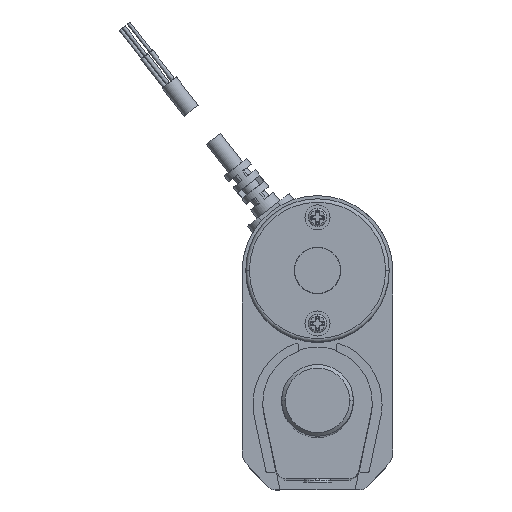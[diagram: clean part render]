
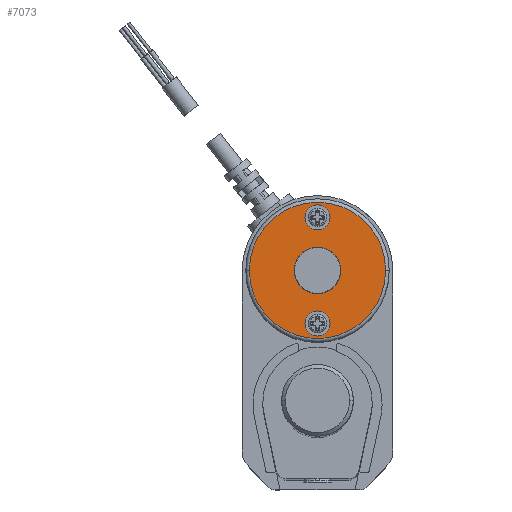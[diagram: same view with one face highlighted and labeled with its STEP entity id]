
A CAD part, top view. The second image highlights one B-rep face of the part: STEP entity #7073.
In plain terms, the highlighted planar face has unit normal (0, 0, 1).
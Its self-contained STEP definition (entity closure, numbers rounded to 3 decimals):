
#184 = AXIS2_PLACEMENT_3D ( 'NONE', #5513, #1861, #408 ) ;
#207 = AXIS2_PLACEMENT_3D ( 'NONE', #975, #9564, #4624 ) ;
#408 = DIRECTION ( 'NONE',  ( -1., 0., 0. ) ) ;
#975 = CARTESIAN_POINT ( 'NONE',  ( 0., 6.354, 132. ) ) ;
#984 = ORIENTED_EDGE ( 'NONE', *, *, #3474, .T. ) ;
#1362 = EDGE_CURVE ( 'NONE', #15868, #10573, #13615, .T. ) ;
#1851 = AXIS2_PLACEMENT_3D ( 'NONE', #4719, #5840, #12132 ) ;
#1861 = DIRECTION ( 'NONE',  ( 0., 0., 1. ) ) ;
#1958 = CARTESIAN_POINT ( 'NONE',  ( 19., 21.154, 132. ) ) ;
#2783 = CARTESIAN_POINT ( 'NONE',  ( 1.5, 35.954, 132. ) ) ;
#3216 = EDGE_CURVE ( 'NONE', #8061, #13114, #4260, .T. ) ;
#3347 = CARTESIAN_POINT ( 'NONE',  ( 0., 21.154, 132. ) ) ;
#3474 = EDGE_CURVE ( 'NONE', #13380, #10177, #10856, .T. ) ;
#3583 = CARTESIAN_POINT ( 'NONE',  ( 0., 35.954, 132. ) ) ;
#3935 = PLANE ( 'NONE',  #8026 ) ;
#4169 = FACE_OUTER_BOUND ( 'NONE', #10462, .T. ) ;
#4260 = CIRCLE ( 'NONE', #13597, 1.5 ) ;
#4420 = CIRCLE ( 'NONE', #207, 1.5 ) ;
#4458 = DIRECTION ( 'NONE',  ( 0., 0., 1. ) ) ;
#4541 = DIRECTION ( 'NONE',  ( -1., 0., 0. ) ) ;
#4624 = DIRECTION ( 'NONE',  ( -1., 0., 0. ) ) ;
#4719 = CARTESIAN_POINT ( 'NONE',  ( 0., 21.154, 132. ) ) ;
#4845 = DIRECTION ( 'NONE',  ( -1., 0., 0. ) ) ;
#5264 = AXIS2_PLACEMENT_3D ( 'NONE', #3583, #5856, #4845 ) ;
#5444 = CARTESIAN_POINT ( 'NONE',  ( 0., 21.154, 132. ) ) ;
#5513 = CARTESIAN_POINT ( 'NONE',  ( 0., 6.354, 132. ) ) ;
#5840 = DIRECTION ( 'NONE',  ( 0., 0., 1. ) ) ;
#5856 = DIRECTION ( 'NONE',  ( 0., 0., 1. ) ) ;
#5916 = CARTESIAN_POINT ( 'NONE',  ( -19., 21.154, 132. ) ) ;
#6458 = ORIENTED_EDGE ( 'NONE', *, *, #14026, .F. ) ;
#6692 = DIRECTION ( 'NONE',  ( 0., 0., 1. ) ) ;
#7054 = ORIENTED_EDGE ( 'NONE', *, *, #15717, .T. ) ;
#7073 = ADVANCED_FACE ( 'NONE', ( #9018, #14419, #4169 ), #3935, .T. ) ;
#7178 = EDGE_LOOP ( 'NONE', ( #11765, #15417 ) ) ;
#7264 = CARTESIAN_POINT ( 'NONE',  ( -1.5, 6.354, 132. ) ) ;
#8026 = AXIS2_PLACEMENT_3D ( 'NONE', #5444, #6692, #13721 ) ;
#8061 = VERTEX_POINT ( 'NONE', #11594 ) ;
#8740 = CIRCLE ( 'NONE', #5264, 1.5 ) ;
#9018 = FACE_BOUND ( 'NONE', #7178, .T. ) ;
#9096 = EDGE_LOOP ( 'NONE', ( #13048, #6458 ) ) ;
#9564 = DIRECTION ( 'NONE',  ( 0., 0., 1. ) ) ;
#10177 = VERTEX_POINT ( 'NONE', #5916 ) ;
#10400 = CARTESIAN_POINT ( 'NONE',  ( 0., 35.954, 132. ) ) ;
#10462 = EDGE_LOOP ( 'NONE', ( #7054, #984 ) ) ;
#10573 = VERTEX_POINT ( 'NONE', #14671 ) ;
#10856 = CIRCLE ( 'NONE', #1851, 19. ) ;
#11594 = CARTESIAN_POINT ( 'NONE',  ( -1.5, 35.954, 132. ) ) ;
#11737 = DIRECTION ( 'NONE',  ( 0., 0., 1. ) ) ;
#11765 = ORIENTED_EDGE ( 'NONE', *, *, #3216, .F. ) ;
#12132 = DIRECTION ( 'NONE',  ( -1., 0., 0. ) ) ;
#12343 = EDGE_CURVE ( 'NONE', #13114, #8061, #8740, .T. ) ;
#12789 = AXIS2_PLACEMENT_3D ( 'NONE', #3347, #4458, #14502 ) ;
#13048 = ORIENTED_EDGE ( 'NONE', *, *, #1362, .F. ) ;
#13114 = VERTEX_POINT ( 'NONE', #2783 ) ;
#13380 = VERTEX_POINT ( 'NONE', #1958 ) ;
#13487 = CIRCLE ( 'NONE', #12789, 19. ) ;
#13597 = AXIS2_PLACEMENT_3D ( 'NONE', #10400, #11737, #4541 ) ;
#13615 = CIRCLE ( 'NONE', #184, 1.5 ) ;
#13721 = DIRECTION ( 'NONE',  ( -1., 0., 0. ) ) ;
#14026 = EDGE_CURVE ( 'NONE', #10573, #15868, #4420, .T. ) ;
#14419 = FACE_BOUND ( 'NONE', #9096, .T. ) ;
#14502 = DIRECTION ( 'NONE',  ( -1., 0., 0. ) ) ;
#14671 = CARTESIAN_POINT ( 'NONE',  ( 1.5, 6.354, 132. ) ) ;
#15417 = ORIENTED_EDGE ( 'NONE', *, *, #12343, .F. ) ;
#15717 = EDGE_CURVE ( 'NONE', #10177, #13380, #13487, .T. ) ;
#15868 = VERTEX_POINT ( 'NONE', #7264 ) ;
